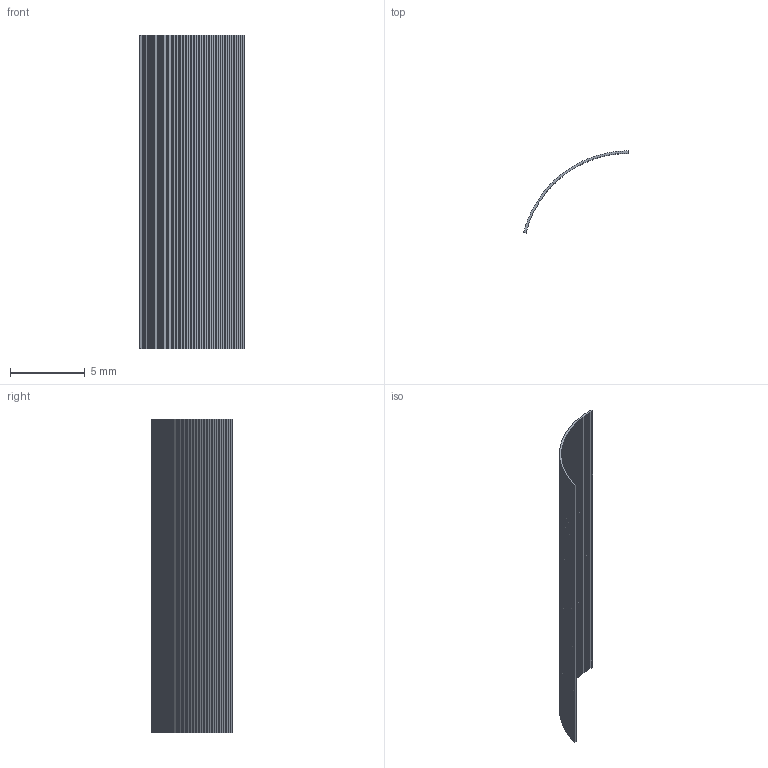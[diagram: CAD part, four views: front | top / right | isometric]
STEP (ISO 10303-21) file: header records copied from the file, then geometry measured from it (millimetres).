
FILE_DESCRIPTION(('Open CASCADE Model'),'2;1');
FILE_NAME('Open CASCADE Shape Model','2026-10-04T01:02:35',('Author'),( 'Open CASCADE'),'Open CASCADE STEP processor 8.0','Open CASCADE 8.0' ,'Unknown');
FILE_SCHEMA(('AUTOMOTIVE_DESIGN { 1 0 10303 214 1 1 1 1 }'));
Length unit declared in the file: millimetre
Products named in the file (1): Open CASCADE STEP translator 8.0 393
Bounding box: 6.97 x 5.46 x 21 mm (x, y, z)
Volume: 29.6 mm3; surface area: 404.4 mm2
Topology: 1 solids, 1 shells, 156 faces, 462 edges, 308 vertices
Faces by surface type: plane 156
Entity records: 11122 total; most frequent: CARTESIAN_POINT 1851, DIRECTION 1700, LINE 1386, VECTOR 1386, ORIENTED_EDGE 924, PCURVE 924, DEFINITIONAL_REPRESENTATION 924, EDGE_CURVE 462
